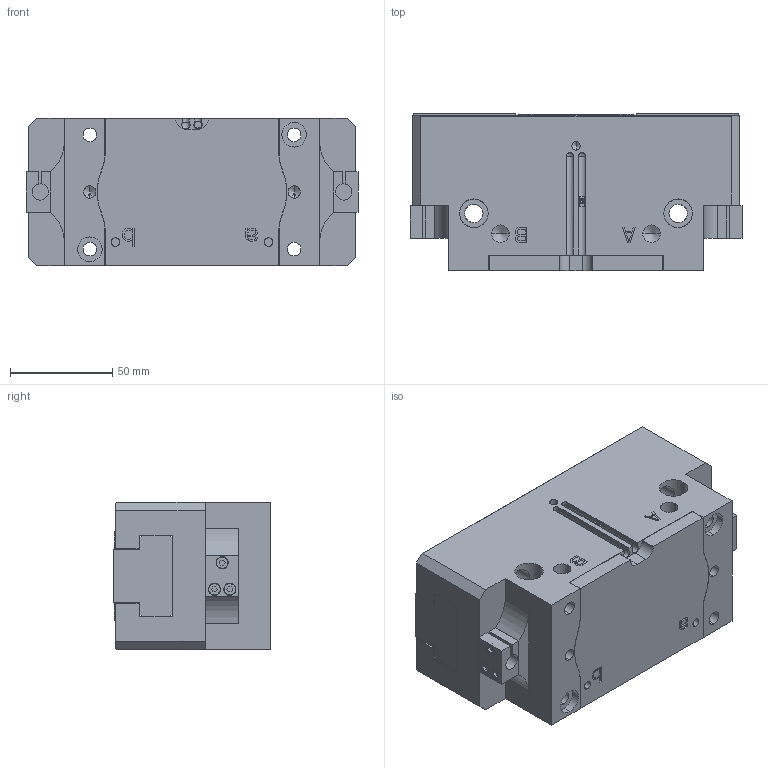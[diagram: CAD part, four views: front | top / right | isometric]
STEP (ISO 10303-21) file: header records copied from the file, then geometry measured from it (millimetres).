
FILE_DESCRIPTION (( 'STEP AP214' ), '1' );
FILE_NAME ('FPT 160A-1.STEP', '2021-09-18T04:41:17', ( 'DEEP' ), ( 'Microsoft' ), 'SwSTEP 2.0', 'SolidWorks 2016', '' );
FILE_SCHEMA (( 'AUTOMOTIVE_DESIGN' ));
Length unit declared in the file: millimetre
Products named in the file (15): FPT 160A-1-002; FPT 160A-1-003; FPT 160A-1; FPT 160A-1-004; FPT 160A-1-005; FPT 160A-1-001; FPT 160A-1-006
Assembly tree (8 placements, depth 2):
  FPT 160A-1-002
  FPT 160A-1-003
  FPT 160A-1
    FPT 160A-1-003
    FPT 160A-1-002
    FPT 160A-1-006
    FPT 160A-1-001  x2
    FPT 160A-1-005
    FPT 160A-1-004  x2
  FPT 160A-1-004
  FPT 160A-1-004
Bounding box: 162.5 x 77 x 72 mm (x, y, z)
Volume: 751652.2 mm3; surface area: 134176.3 mm2
Topology: 8 solids, 8 shells, 625 faces, 1640 edges, 1051 vertices
Faces by surface type: plane 376, cylinder 175, cone 68, bspline 6
Entity records: 17863 total; most frequent: CARTESIAN_POINT 3773, ORIENTED_EDGE 2780, DIRECTION 2778, EDGE_CURVE 1390, VECTOR 1006, LINE 1006, VERTEX_POINT 917, AXIS2_PLACEMENT_3D 886
